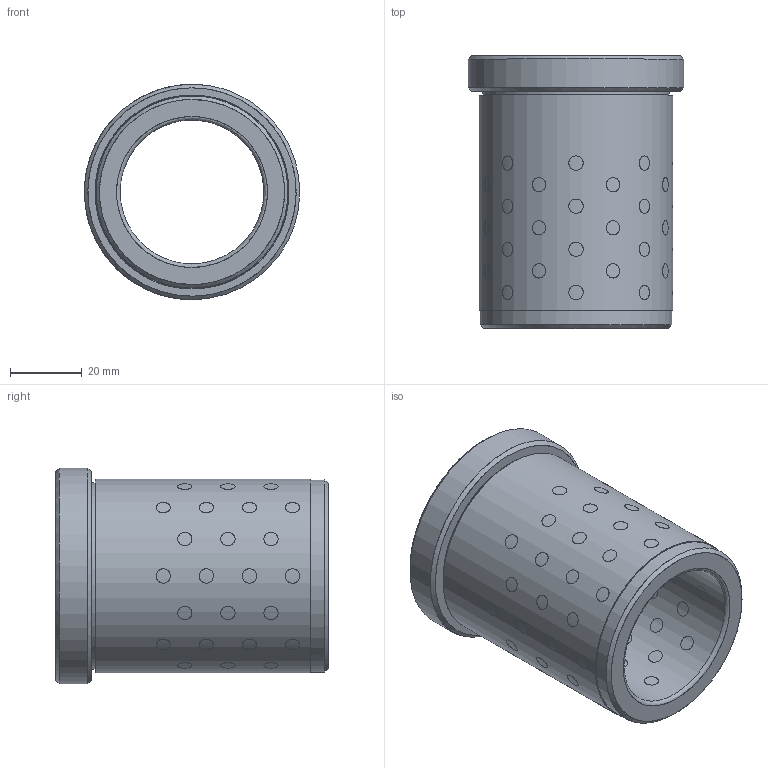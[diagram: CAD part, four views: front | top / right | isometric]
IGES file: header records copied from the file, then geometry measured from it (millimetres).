
Start section: Missler Software BP 521, 31674 Labege Cedex, France Tel   : +33 (0)5 61 00 03 00 Fax   : +33 (0)5 61 00 03 03 Email : sup.topsolid@topsolid.com
Global section: file name: D:\Cuma\D30.05\D30.05_4076.igs; native system: TopSolid v605250 Missler Software; preprocessor: IGES preprocessor v100000; date: 030120.204822; units: millimetre
Bounding box: 60 x 76 x 60 mm (x, y, z)
Surface area: 33770.8 mm2 (no closed solid volume)
Topology: 0 solids, 0 shells, 231 faces, 4532 edges, 4380 vertices
Faces by surface type: bspline 231
